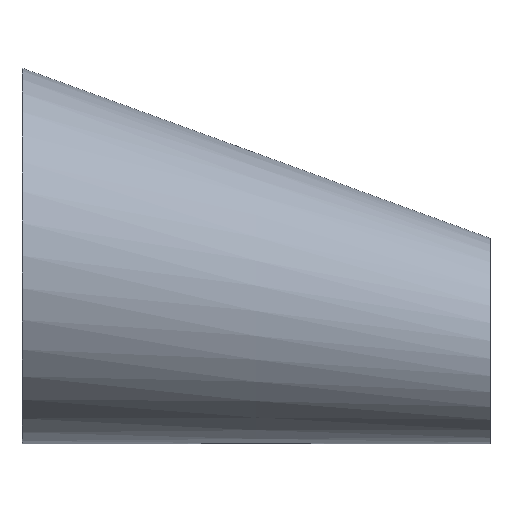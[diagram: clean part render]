
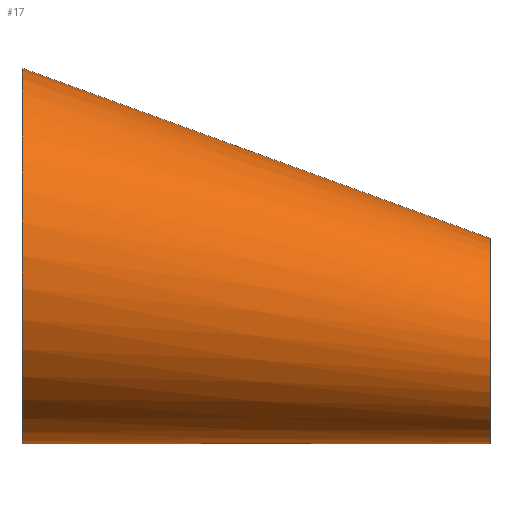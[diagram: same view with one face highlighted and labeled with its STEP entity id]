
A CAD part, top view. The second image highlights one B-rep face of the part: STEP entity #17.
In plain terms, the highlighted free-form (B-spline) face has degree [14, 1] with [15, 2] control points.
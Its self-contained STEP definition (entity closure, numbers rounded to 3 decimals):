
#17 = ADVANCED_FACE('',(#18),#31,.T.);
#18 = FACE_BOUND('',#19,.T.);
#19 = EDGE_LOOP('',(#20,#80,#102,#129));
#20 = ORIENTED_EDGE('',*,*,#21,.T.);
#21 = EDGE_CURVE('',#22,#22,#24,.T.);
#22 = VERTEX_POINT('',#23);
#23 = CARTESIAN_POINT('',(0.,26.5,0.));
#24 = SURFACE_CURVE('',#25,(#30,#68),.PCURVE_S1.);
#25 = CIRCLE('',#26,26.5);
#26 = AXIS2_PLACEMENT_3D('',#27,#28,#29);
#27 = CARTESIAN_POINT('',(0.,0.,0.));
#28 = DIRECTION('',(1.,0.,0.));
#29 = DIRECTION('',(0.,1.,0.));
#30 = PCURVE('',#31,#62);
#31 = B_SPLINE_SURFACE_WITH_KNOTS('',14,1,(
    (#32,#33)
    ,(#34,#35)
    ,(#36,#37)
    ,(#38,#39)
    ,(#40,#41)
    ,(#42,#43)
    ,(#44,#45)
    ,(#46,#47)
    ,(#48,#49)
    ,(#50,#51)
    ,(#52,#53)
    ,(#54,#55)
    ,(#56,#57)
    ,(#58,#59)
    ,(#60,#61
    )),.UNSPECIFIED.,.T.,.F.,.F.,(15,15),(2,2),(0.,6.283),(0.,1.
    ),.PIECEWISE_BEZIER_KNOTS.);
#32 = CARTESIAN_POINT('',(0.,26.5,0.));
#33 = CARTESIAN_POINT('',(66.,2.5,0.));
#34 = CARTESIAN_POINT('',(0.,26.5,11.893));
#35 = CARTESIAN_POINT('',(66.,2.5,6.508)
  );
#36 = CARTESIAN_POINT('',(0.,20.752,23.786));
#37 = CARTESIAN_POINT('',(66.,-0.645,13.015)
  );
#38 = CARTESIAN_POINT('',(0.,9.255,32.67));
#39 = CARTESIAN_POINT('',(66.,-6.936,
    17.876));
#40 = CARTESIAN_POINT('',(0.,-6.27,35.534));
#41 = CARTESIAN_POINT('',(66.,-15.431,
    19.443));
#42 = CARTESIAN_POINT('',(0.,-22.387,30.448));
#43 = CARTESIAN_POINT('',(66.,-24.249,16.66)
  );
#44 = CARTESIAN_POINT('',(0.,-34.69,17.646));
#45 = CARTESIAN_POINT('',(66.,-30.981,9.655
    ));
#46 = CARTESIAN_POINT('',(0.,-39.321,0.));
#47 = CARTESIAN_POINT('',(66.,-33.516,
    0.));
#48 = CARTESIAN_POINT('',(0.,-34.69,-17.646));
#49 = CARTESIAN_POINT('',(66.,-30.981,-9.655)
  );
#50 = CARTESIAN_POINT('',(0.,-22.387,-30.448));
#51 = CARTESIAN_POINT('',(66.,-24.249,
    -16.66));
#52 = CARTESIAN_POINT('',(0.,-6.27,-35.534));
#53 = CARTESIAN_POINT('',(66.,-15.431,-19.443
    ));
#54 = CARTESIAN_POINT('',(0.,9.255,-32.67));
#55 = CARTESIAN_POINT('',(66.,-6.936,
    -17.876));
#56 = CARTESIAN_POINT('',(0.,20.752,-23.786));
#57 = CARTESIAN_POINT('',(66.,-0.645,
    -13.015));
#58 = CARTESIAN_POINT('',(0.,26.5,-11.893));
#59 = CARTESIAN_POINT('',(66.,2.5,-6.508
    ));
#60 = CARTESIAN_POINT('',(0.,26.5,0.));
#61 = CARTESIAN_POINT('',(66.,2.5,0.));
#62 = DEFINITIONAL_REPRESENTATION('',(#63),#67);
#63 = LINE('',#64,#65);
#64 = CARTESIAN_POINT('',(0.,0.));
#65 = VECTOR('',#66,1.);
#66 = DIRECTION('',(1.,0.));
#67 = ( GEOMETRIC_REPRESENTATION_CONTEXT(2) 
PARAMETRIC_REPRESENTATION_CONTEXT() REPRESENTATION_CONTEXT('2D SPACE',''
  ) );
#68 = PCURVE('',#69,#74);
#69 = PLANE('',#70);
#70 = AXIS2_PLACEMENT_3D('',#71,#72,#73);
#71 = CARTESIAN_POINT('',(0.,0.,0.));
#72 = DIRECTION('',(1.,0.,0.));
#73 = DIRECTION('',(0.,1.,0.));
#74 = DEFINITIONAL_REPRESENTATION('',(#75),#79);
#75 = CIRCLE('',#76,26.5);
#76 = AXIS2_PLACEMENT_2D('',#77,#78);
#77 = CARTESIAN_POINT('',(0.,0.));
#78 = DIRECTION('',(1.,0.));
#79 = ( GEOMETRIC_REPRESENTATION_CONTEXT(2) 
PARAMETRIC_REPRESENTATION_CONTEXT() REPRESENTATION_CONTEXT('2D SPACE',''
  ) );
#80 = ORIENTED_EDGE('',*,*,#81,.T.);
#81 = EDGE_CURVE('',#22,#82,#84,.T.);
#82 = VERTEX_POINT('',#83);
#83 = CARTESIAN_POINT('',(66.,2.5,0.));
#84 = SEAM_CURVE('',#85,(#88,#95),.PCURVE_S1.);
#85 = B_SPLINE_CURVE_WITH_KNOTS('',1,(#86,#87),.UNSPECIFIED.,.F.,.F.,(2,
    2),(0.,1.),.PIECEWISE_BEZIER_KNOTS.);
#86 = CARTESIAN_POINT('',(0.,26.5,0.));
#87 = CARTESIAN_POINT('',(66.,2.5,0.));
#88 = PCURVE('',#31,#89);
#89 = DEFINITIONAL_REPRESENTATION('',(#90),#94);
#90 = LINE('',#91,#92);
#91 = CARTESIAN_POINT('',(6.283,0.));
#92 = VECTOR('',#93,1.);
#93 = DIRECTION('',(0.,1.));
#94 = ( GEOMETRIC_REPRESENTATION_CONTEXT(2) 
PARAMETRIC_REPRESENTATION_CONTEXT() REPRESENTATION_CONTEXT('2D SPACE',''
  ) );
#95 = PCURVE('',#31,#96);
#96 = DEFINITIONAL_REPRESENTATION('',(#97),#101);
#97 = LINE('',#98,#99);
#98 = CARTESIAN_POINT('',(0.,0.));
#99 = VECTOR('',#100,1.);
#100 = DIRECTION('',(0.,1.));
#101 = ( GEOMETRIC_REPRESENTATION_CONTEXT(2) 
PARAMETRIC_REPRESENTATION_CONTEXT() REPRESENTATION_CONTEXT('2D SPACE',''
  ) );
#102 = ORIENTED_EDGE('',*,*,#103,.F.);
#103 = EDGE_CURVE('',#82,#82,#104,.T.);
#104 = SURFACE_CURVE('',#105,(#110,#117),.PCURVE_S1.);
#105 = CIRCLE('',#106,14.5);
#106 = AXIS2_PLACEMENT_3D('',#107,#108,#109);
#107 = CARTESIAN_POINT('',(66.,-12.,0.));
#108 = DIRECTION('',(1.,0.,0.));
#109 = DIRECTION('',(0.,1.,0.));
#110 = PCURVE('',#31,#111);
#111 = DEFINITIONAL_REPRESENTATION('',(#112),#116);
#112 = LINE('',#113,#114);
#113 = CARTESIAN_POINT('',(0.,1.));
#114 = VECTOR('',#115,1.);
#115 = DIRECTION('',(1.,0.));
#116 = ( GEOMETRIC_REPRESENTATION_CONTEXT(2) 
PARAMETRIC_REPRESENTATION_CONTEXT() REPRESENTATION_CONTEXT('2D SPACE',''
  ) );
#117 = PCURVE('',#118,#123);
#118 = PLANE('',#119);
#119 = AXIS2_PLACEMENT_3D('',#120,#121,#122);
#120 = CARTESIAN_POINT('',(66.,-12.,0.));
#121 = DIRECTION('',(1.,0.,0.));
#122 = DIRECTION('',(0.,1.,0.));
#123 = DEFINITIONAL_REPRESENTATION('',(#124),#128);
#124 = CIRCLE('',#125,14.5);
#125 = AXIS2_PLACEMENT_2D('',#126,#127);
#126 = CARTESIAN_POINT('',(0.,0.));
#127 = DIRECTION('',(1.,0.));
#128 = ( GEOMETRIC_REPRESENTATION_CONTEXT(2) 
PARAMETRIC_REPRESENTATION_CONTEXT() REPRESENTATION_CONTEXT('2D SPACE',''
  ) );
#129 = ORIENTED_EDGE('',*,*,#81,.F.);
